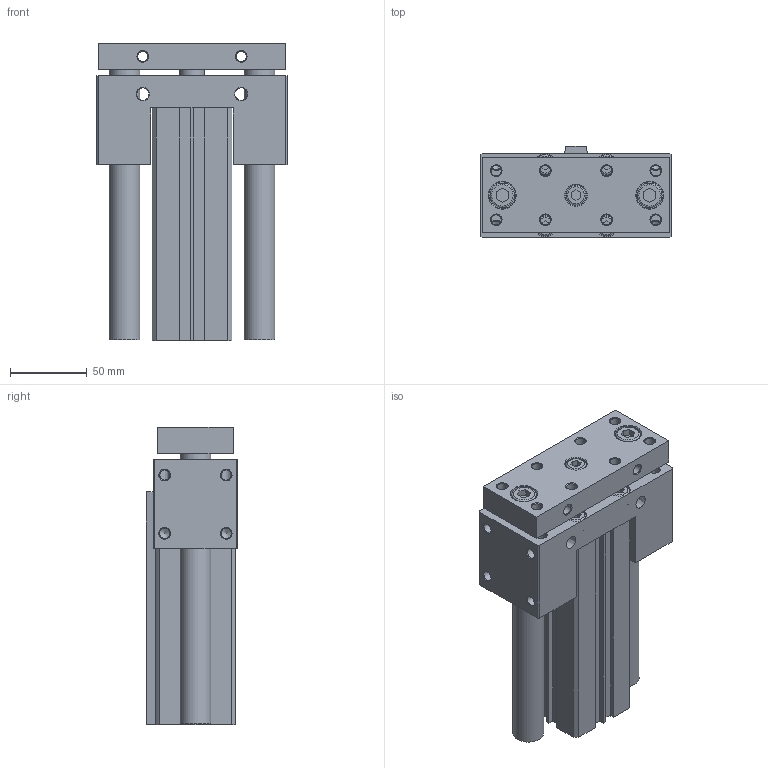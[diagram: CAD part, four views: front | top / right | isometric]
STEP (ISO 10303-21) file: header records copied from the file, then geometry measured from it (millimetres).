
FILE_DESCRIPTION((''),'2;1');
FILE_NAME('I:\3D電子目錄\氣缸\JCB\JCB\JCB40-S\JCB40x115-S.stp','2007-08-23T20:17:15',('Administrator'),(''),'Autodesk Inventor 11','Autodesk Inventor 11','');
FILE_SCHEMA(('AUTOMOTIVE_DESIGN { 1 0 10303 214 1 1 1 1 }'));
Length unit declared in the file: millimetre
Products named in the file (1): JCB40
Bounding box: 124 x 59.5 x 193.5 mm (x, y, z)
Volume: 788118.8 mm3; surface area: 160203.5 mm2
Topology: 3 solids, 3 shells, 303 faces, 731 edges, 473 vertices
Faces by surface type: plane 163, cylinder 52, cone 47, bspline 33, torus 8
Full cylindrical faces by diameter (mm): 2.2 x2, 6.647 x4, 6.8 x4, 10 x8, 13 x5, 14 x5, 16 x3, 17 x1, 17.5 x2, 20 x2, 23 x2, 28 x1, 29 x1, 42 x4, 44.5 x2
Entity records: 8528 total; most frequent: CARTESIAN_POINT 2090, DIRECTION 1302, ORIENTED_EDGE 1114, EDGE_CURVE 557, EDGE_LOOP 522, AXIS2_PLACEMENT_3D 480, VERTEX_POINT 435, VECTOR 342
